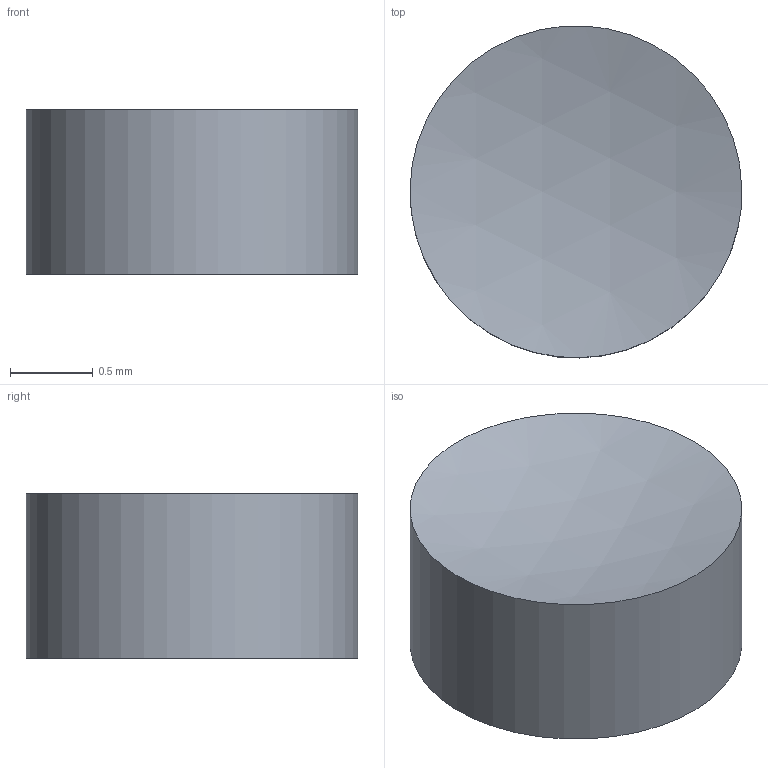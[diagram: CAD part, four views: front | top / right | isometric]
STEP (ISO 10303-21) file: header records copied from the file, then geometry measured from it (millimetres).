
FILE_DESCRIPTION ((), '1');
FILE_NAME ('C:\Users\r.sato\Desktop\', '2016-12-19T19:09:51', ('Unknown'), ('Unknown'), 'HarmonyWare STEP v1.9.13', 'HarmonyWare Translators', '');
FILE_SCHEMA (('CONFIG_CONTROL_DESIGN'));
Length unit declared in the file: millimetre
Products named in the file (1): NONE
Bounding box: 2 x 2 x 0.99 mm (x, y, z)
Volume: 2.7 mm3; surface area: 12.6 mm2
Topology: 1 solids, 1 shells, 3 faces, 3 edges, 2 vertices
Faces by surface type: sphere 2, cylinder 1
Full cylindrical faces by diameter (mm): 2 x1
Entity records: 151 total; most frequent: CARTESIAN_POINT 25, PERSON 8, ORGANIZATION 8, PERSON_AND_ORGANIZATION 8, ORIENTED_EDGE 6, DIRECTION 6, PERSON_AND_ORGANIZATION_ROLE 5, CC_DESIGN_PERSON_AND_ORGANIZATION_ASSIGNMENT 5
